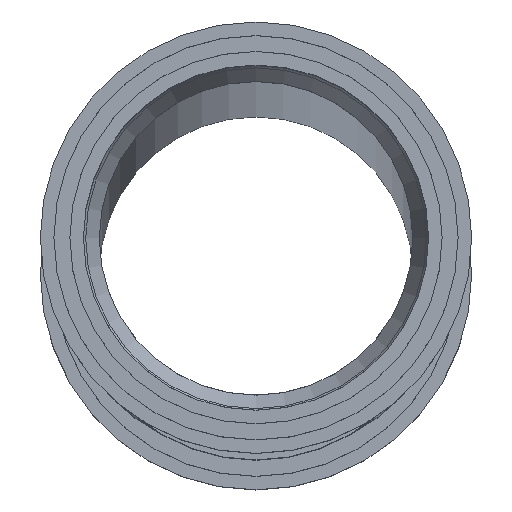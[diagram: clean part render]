
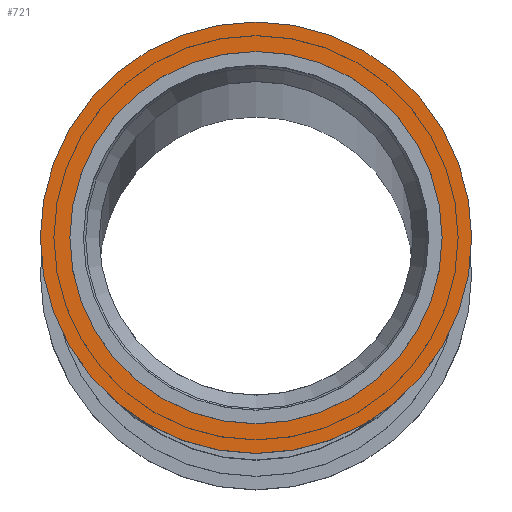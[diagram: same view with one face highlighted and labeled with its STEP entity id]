
A CAD part, top view. The second image highlights one B-rep face of the part: STEP entity #721.
In plain terms, the highlighted planar face has unit normal (0, 0, 1) as drawn and (1, 0, 0) by its records, which use the part's own axes.
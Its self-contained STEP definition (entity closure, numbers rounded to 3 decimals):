
#104=PLANE($,#801);
#131=FACE_BOUND($,#239,.T.);
#132=FACE_BOUND($,#240,.T.);
#239=EDGE_LOOP($,(#605));
#240=EDGE_LOOP($,(#606));
#288=CIRCLE($,#800,31.75);
#289=CIRCLE($,#802,27.4);
#358=VERTEX_POINT($,#1897);
#359=VERTEX_POINT($,#1900);
#444=EDGE_CURVE($,#358,#358,#288,.T.);
#445=EDGE_CURVE($,#359,#359,#289,.T.);
#605=ORIENTED_EDGE($,*,*,#445,.F.);
#606=ORIENTED_EDGE($,*,*,#444,.T.);
#721=ADVANCED_FACE($,(#131,#132),#104,.T.);
#800=AXIS2_PLACEMENT_3D($,#1898,#954,#955);
#801=AXIS2_PLACEMENT_3D($,#1899,#956,#957);
#802=AXIS2_PLACEMENT_3D($,#1901,#958,#959);
#954=DIRECTION('center_axis',(1.,0.,0.));
#955=DIRECTION('ref_axis',(0.,1.,0.));
#956=DIRECTION('center_axis',(1.,0.,0.));
#957=DIRECTION('ref_axis',(0.,0.,-1.));
#958=DIRECTION('center_axis',(1.,0.,0.));
#959=DIRECTION('ref_axis',(0.,1.,0.));
#1897=CARTESIAN_POINT('',(57.,31.75,0.));
#1898=CARTESIAN_POINT('Origin',(57.,0.,0.));
#1899=CARTESIAN_POINT('Origin',(57.,29.575,0.));
#1900=CARTESIAN_POINT('',(57.,27.4,0.));
#1901=CARTESIAN_POINT('Origin',(57.,0.,0.));
